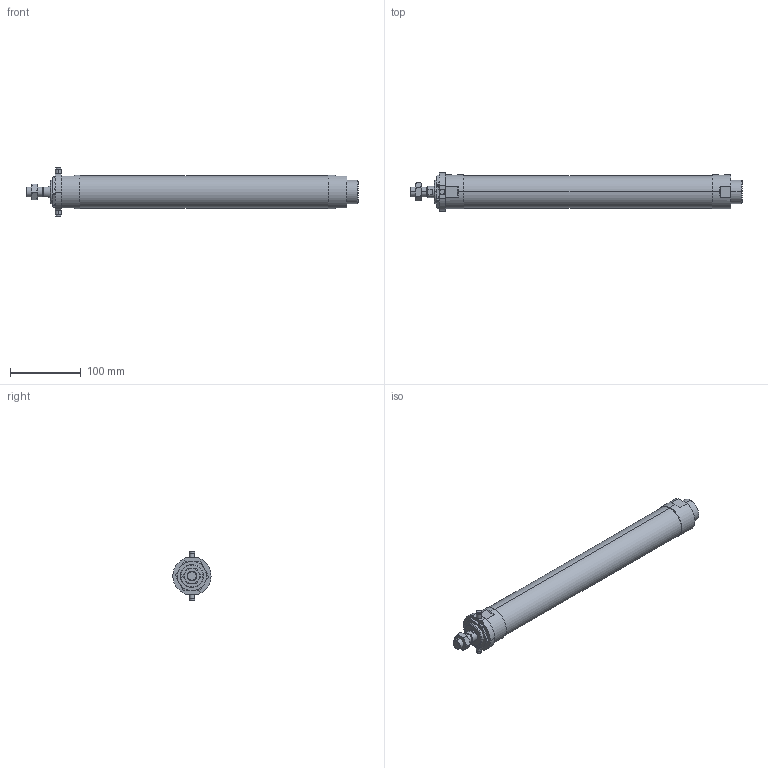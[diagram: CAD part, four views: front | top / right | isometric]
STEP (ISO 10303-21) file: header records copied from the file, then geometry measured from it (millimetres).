
FILE_DESCRIPTION (( 'STEP AP203' ), '1' );
FILE_NAME ('J#2-40-300-T.STEP', '2016-03-08T08:10:44', ( '' ), ( '' ), 'SwSTEP 2.0', 'SolidWorks 2014', '' );
FILE_SCHEMA (( 'CONFIG_CONTROL_DESIGN' ));
Length unit declared in the file: millimetre
Products named in the file (5): J#2-40-300; J#2-40-300-T; J#2-40-T
Assembly tree (4 placements, depth 2):
  J#2-40-300-T
    J#2-40-300
    (unnamed)
    (unnamed)
    J#2-40-T
Bounding box: 469 x 53.91 x 70 mm (x, y, z)
Volume: 724338.4 mm3; surface area: 77625.4 mm2
Topology: 4 solids, 4 shells, 121 faces, 279 edges, 171 vertices
Faces by surface type: plane 39, cylinder 35, torus 24, cone 23
Entity records: 4265 total; most frequent: CARTESIAN_POINT 1053, DIRECTION 576, ORIENTED_EDGE 550, EDGE_CURVE 275, AXIS2_PLACEMENT_3D 236, VERTEX_POINT 171, EDGE_LOOP 136, FACE_OUTER_BOUND 121
